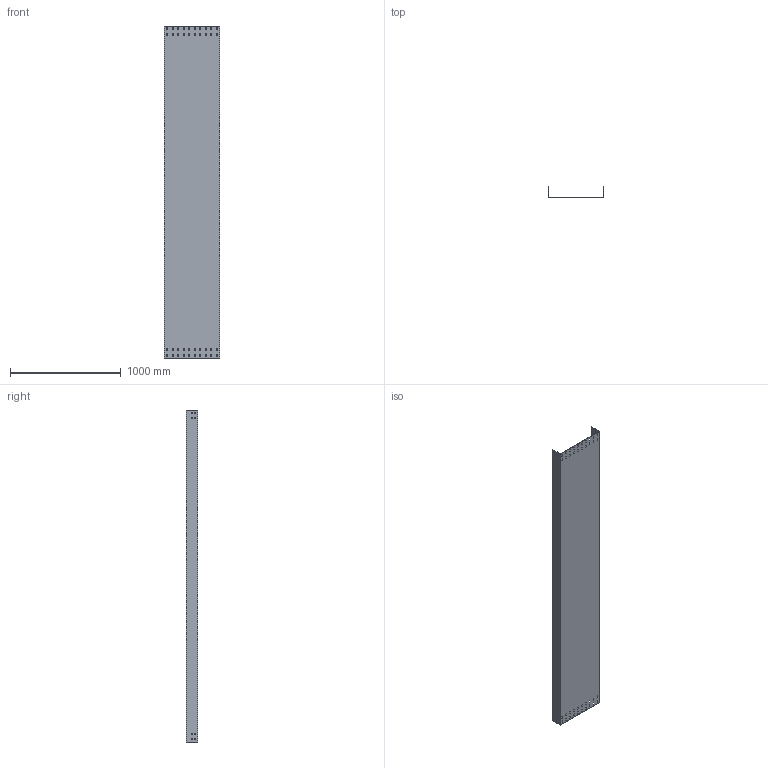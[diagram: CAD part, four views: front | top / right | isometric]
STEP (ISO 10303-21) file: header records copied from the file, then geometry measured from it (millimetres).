
FILE_DESCRIPTION (( 'STEP AP214' ), '1' );
FILE_NAME ('CF_501.step', '2025-07-16T09:06:11', ( '' ), ( '' ), 'SwSTEP 2.0', 'SolidWorks 2023', '' );
FILE_SCHEMA (( 'AUTOMOTIVE_DESIGN' ));
Length unit declared in the file: millimetre
Products named in the file (1): CF_501
Bounding box: 500 x 100 x 3000 mm (x, y, z)
Volume: 3126420 mm3; surface area: 4183707 mm2
Topology: 1 solids, 1 shells, 234 faces, 696 edges, 464 vertices
Faces by surface type: plane 234
Entity records: 7927 total; most frequent: CARTESIAN_POINT 1395, ORIENTED_EDGE 1392, DIRECTION 1166, LINE 696, EDGE_CURVE 696, VECTOR 696, VERTEX_POINT 464, EDGE_LOOP 346
